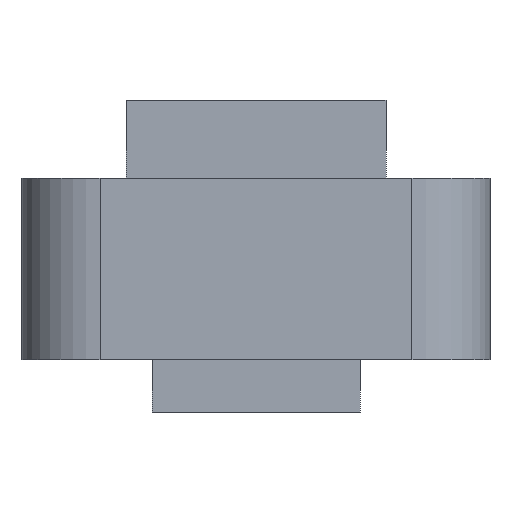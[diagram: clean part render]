
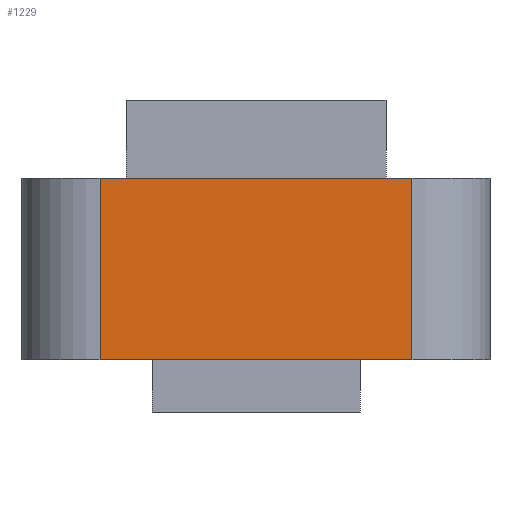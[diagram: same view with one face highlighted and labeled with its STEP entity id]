
A CAD part, left-side view. The second image highlights one B-rep face of the part: STEP entity #1229.
In plain terms, the highlighted planar face has unit normal (-1, 0, 0).
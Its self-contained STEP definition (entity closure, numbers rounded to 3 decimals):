
#33 = CARTESIAN_POINT ( 'NONE',  ( -9., -6., -7. ) ) ;
#123 = ORIENTED_EDGE ( 'NONE', *, *, #1052, .T. ) ;
#212 = VECTOR ( 'NONE', #1404, 1000. ) ;
#250 = CARTESIAN_POINT ( 'NONE',  ( -9., 6., 0. ) ) ;
#258 = EDGE_CURVE ( 'NONE', #749, #733, #522, .T. ) ;
#302 = EDGE_CURVE ( 'NONE', #822, #787, #1247, .T. ) ;
#341 = DIRECTION ( 'NONE',  ( -1., 0., 0. ) ) ;
#473 = ORIENTED_EDGE ( 'NONE', *, *, #302, .T. ) ;
#501 = DIRECTION ( 'NONE',  ( 0., 0., 1. ) ) ;
#506 = VECTOR ( 'NONE', #501, 1000. ) ;
#522 = LINE ( 'NONE', #959, #212 ) ;
#558 = LINE ( 'NONE', #1068, #1123 ) ;
#559 = AXIS2_PLACEMENT_3D ( 'NONE', #811, #341, #1150 ) ;
#620 = CARTESIAN_POINT ( 'NONE',  ( -9., 6., -7. ) ) ;
#650 = CARTESIAN_POINT ( 'NONE',  ( -9., 9., -7. ) ) ;
#733 = VERTEX_POINT ( 'NONE', #833 ) ;
#749 = VERTEX_POINT ( 'NONE', #250 ) ;
#764 = ORIENTED_EDGE ( 'NONE', *, *, #1031, .T. ) ;
#787 = VERTEX_POINT ( 'NONE', #33 ) ;
#811 = CARTESIAN_POINT ( 'NONE',  ( -9., 9., -7. ) ) ;
#822 = VERTEX_POINT ( 'NONE', #620 ) ;
#833 = CARTESIAN_POINT ( 'NONE',  ( -9., -6., 0. ) ) ;
#865 = FACE_OUTER_BOUND ( 'NONE', #956, .T. ) ;
#890 = ORIENTED_EDGE ( 'NONE', *, *, #258, .F. ) ;
#945 = VECTOR ( 'NONE', #1323, 1000. ) ;
#956 = EDGE_LOOP ( 'NONE', ( #890, #764, #473, #123 ) ) ;
#959 = CARTESIAN_POINT ( 'NONE',  ( -9., 9., 0. ) ) ;
#1031 = EDGE_CURVE ( 'NONE', #749, #822, #558, .T. ) ;
#1036 = PLANE ( 'NONE',  #559 ) ;
#1052 = EDGE_CURVE ( 'NONE', #787, #733, #1151, .T. ) ;
#1068 = CARTESIAN_POINT ( 'NONE',  ( -9., 6., -7. ) ) ;
#1123 = VECTOR ( 'NONE', #1186, 1000. ) ;
#1150 = DIRECTION ( 'NONE',  ( 0., 0., 1. ) ) ;
#1151 = LINE ( 'NONE', #1401, #506 ) ;
#1186 = DIRECTION ( 'NONE',  ( 0., 0., -1. ) ) ;
#1229 = ADVANCED_FACE ( 'NONE', ( #865 ), #1036, .T. ) ;
#1247 = LINE ( 'NONE', #650, #945 ) ;
#1323 = DIRECTION ( 'NONE',  ( 0., -1., 0. ) ) ;
#1401 = CARTESIAN_POINT ( 'NONE',  ( -9., -6., -7. ) ) ;
#1404 = DIRECTION ( 'NONE',  ( 0., -1., 0. ) ) ;
